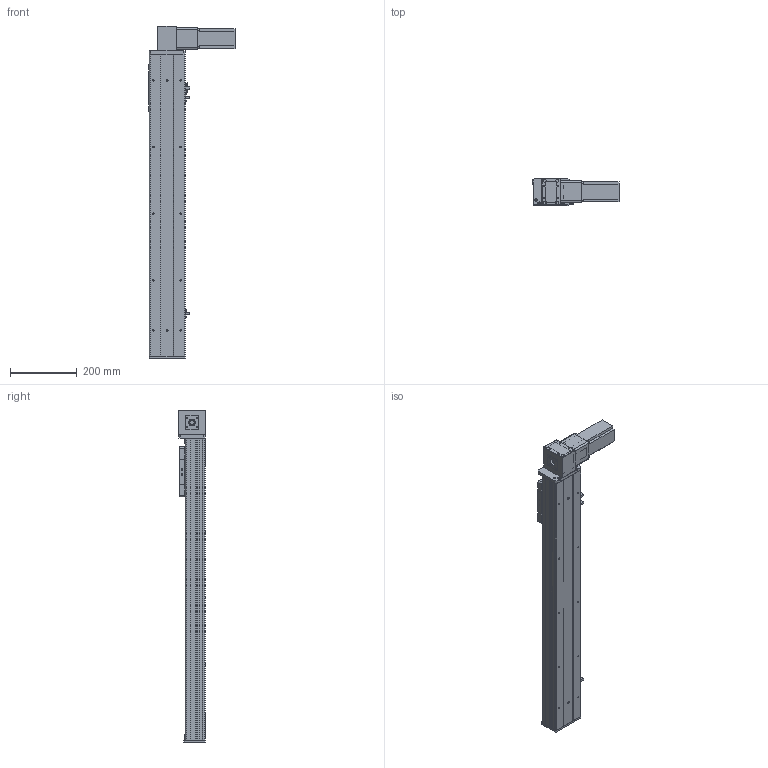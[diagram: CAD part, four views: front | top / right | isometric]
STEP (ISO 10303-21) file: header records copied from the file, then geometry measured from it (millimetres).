
FILE_DESCRIPTION (( 'STEP AP203' ), '1' );
FILE_NAME ('Y10CB-D90-S650-BD-P400W.STEP', '2020-02-17T02:27:15', ( '微软用户' ), ( '微软中国' ), 'SwSTEP 2.0', 'SolidWorks 2017', '' );
FILE_SCHEMA (( 'CONFIG_CONTROL_DESIGN' ));
Length unit declared in the file: millimetre
Products named in the file (16): Y135C-陔俋离換覜結え-; san松下电机400不带刹车----; Y100-135俋离換覜ん--; 0B-源倛裔啣; Y10B--々湍喘謫眊--666; 0B-埴倛裔啣; 0B-薊粣ん眊; 10CB-詩湍-; Y10CB-D90-S650-BD-P400W; Y10CB- 掛极耜裔啣-毀---; Y10C---詩湍揤啣; 0CB-雄赽釱---; 10CB9-掛极; 0Cb-俋欶---; 10CB-耜裔; Y10B-々湍喘謫眊楊擘啣--
Assembly tree (19 placements, depth 2):
  Y10CB-D90-S650-BD-P400W
    0CB-雄赽釱---
    0Cb-俋欶---
    Y10B-々湍喘謫眊楊擘啣--
    san松下电机400不带刹车----
    0B-源倛裔啣
    0B-埴倛裔啣
    10CB-詩湍-
    Y10CB- 掛极耜裔啣-毀---  x2
    Y10C---詩湍揤啣  x2
    10CB9-掛极
    10CB-耜裔
    Y135C-陔俋离換覜結え-
    Y100-135俋离換覜ん--  x3
    Y10B--々湍喘謫眊--666
    0B-薊粣ん眊
Bounding box: 258 x 80.5 x 996 mm (x, y, z)
Volume: 2525567.1 mm3; surface area: 1059652.3 mm2
Topology: 19 solids, 19 shells, 876 faces, 2302 edges, 1508 vertices
Faces by surface type: plane 432, cylinder 420, cone 24
Entity records: 26569 total; most frequent: CARTESIAN_POINT 4608, DIRECTION 4321, ORIENTED_EDGE 4074, EDGE_CURVE 2037, AXIS2_PLACEMENT_3D 1551, VERTEX_POINT 1334, LINE 1219, VECTOR 1219
